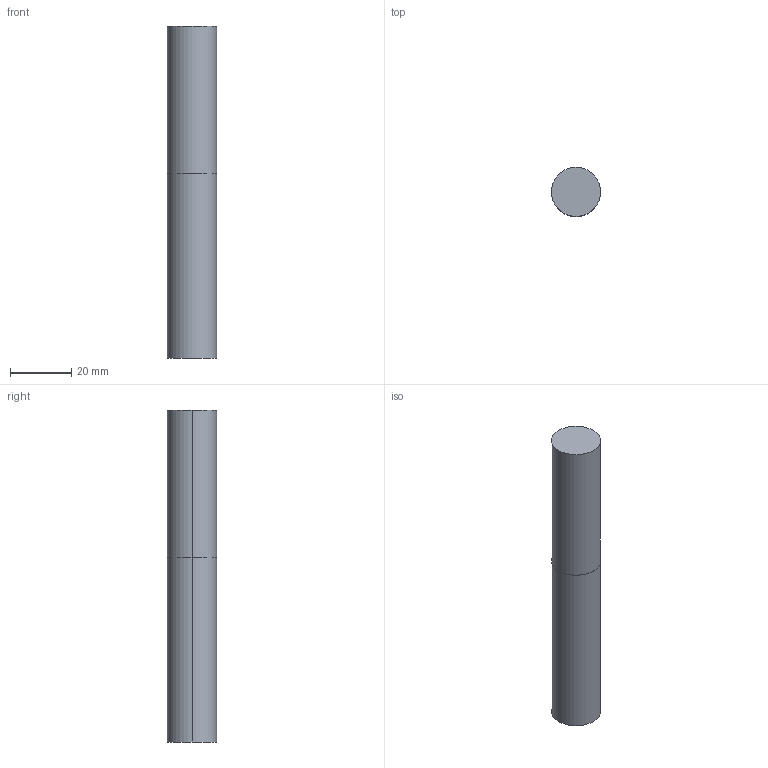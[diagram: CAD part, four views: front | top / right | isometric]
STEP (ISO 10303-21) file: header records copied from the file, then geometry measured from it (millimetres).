
FILE_DESCRIPTION(('STEP AP214'),'1');
FILE_NAME('cctmp_877A014F-F317-4D2A-B58B-C99916391F20_2020_09_30_16_03_33_0014..stp','2020-09-30T14:03:33',('Meusburger Georg GmbH & Co KG'),('CADClick - www.CADClick.com'),'Spatial InterOp 3D',' ','unknown authorization');
FILE_SCHEMA(('AUTOMOTIVE_DESIGN { 1 0 10303 214 1 1 1 1 }'));
Length unit declared in the file: millimetre
Products named in the file (1): WZF13252P_16
Bounding box: 16 x 16 x 108 mm (x, y, z)
Volume: 21714.7 mm3; surface area: 5831.8 mm2
Topology: 1 solids, 1 shells, 10 faces, 18 edges, 12 vertices
Faces by surface type: cylinder 6, plane 4
Entity records: 358 total; most frequent: DIRECTION 52, CARTESIAN_POINT 41, ORIENTED_EDGE 36, AXIS2_PLACEMENT_3D 23, EDGE_CURVE 18, EDGE_LOOP 12, VERTEX_POINT 12, CIRCLE 12
